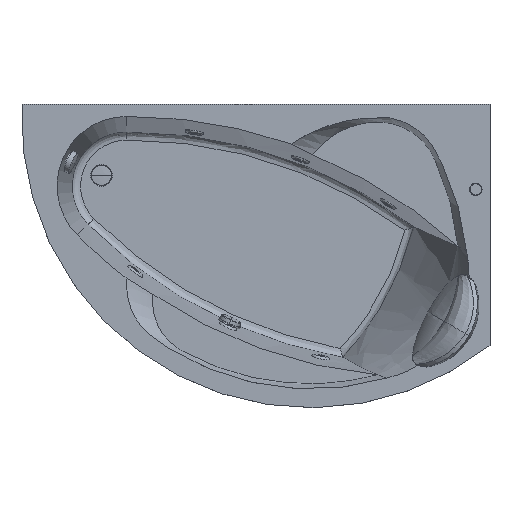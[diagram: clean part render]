
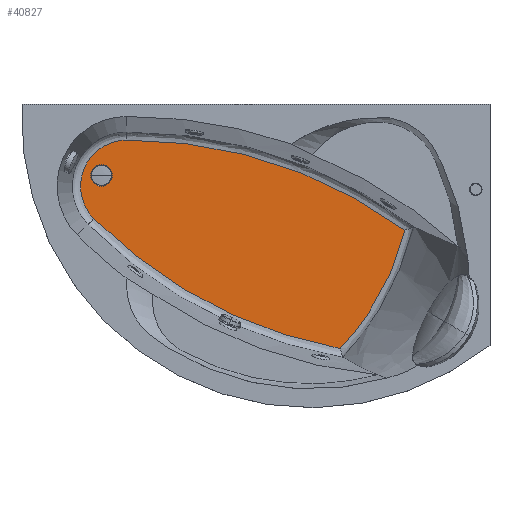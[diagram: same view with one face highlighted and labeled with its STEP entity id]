
A CAD part, top view. The second image highlights one B-rep face of the part: STEP entity #40827.
In plain terms, the highlighted planar face has unit normal (0, 0, 1).
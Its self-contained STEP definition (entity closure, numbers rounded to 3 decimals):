
#39939=CARTESIAN_POINT('',(-299.971,-443.388,-403.0));
#39940=VERTEX_POINT('',#39939);
#39952=CARTESIAN_POINT('',(-528.536,-860.498,-403.0));
#39953=VERTEX_POINT('',#39952);
#39954=CARTESIAN_POINT('',(-299.971,-443.388,-403.0));
#39955=CARTESIAN_POINT('',(-303.541,-458.027,-403.0));
#39956=CARTESIAN_POINT('',(-315.568,-502.405,-403.0));
#39957=CARTESIAN_POINT('',(-342.793,-579.282,-403.0));
#39958=CARTESIAN_POINT('',(-383.37,-663.945,-403.0));
#39959=CARTESIAN_POINT('',(-427.256,-735.849,-403.0));
#39960=CARTESIAN_POINT('',(-463.784,-786.179,-403.0));
#39961=CARTESIAN_POINT('',(-493.156,-822.013,-403.0));
#39962=CARTESIAN_POINT('',(-513.33,-844.571,-403.));
#39963=CARTESIAN_POINT('',(-524.883,-856.724,-403.0));
#39964=CARTESIAN_POINT('',(-528.536,-860.498,-403.0));
#39965=B_SPLINE_CURVE_WITH_KNOTS('',3,(#39954,#39955,#39956,#39957,#39958,#39959,#39960,#39961,#39962,#39963,#39964),.UNSPECIFIED.,.F.,.U.,(4,1,1,1,1,1,1,1,4),(19.051,64.256,156.928,263.42,345.451,409.397,449.868,484.412,500.169),.UNSPECIFIED.);
#39966=EDGE_CURVE('',#39940,#39953,#39965,.T.);
#40031=CARTESIAN_POINT('',(-1282.265,-125.713,-403.0));
#40032=VERTEX_POINT('',#40031);
#40042=CARTESIAN_POINT('',(-1272.231,-1772.215,-403.0));
#40043=DIRECTION('',(0.0,0.0,-1.0));
#40044=DIRECTION('',(0.688,0.726,0.0));
#40045=AXIS2_PLACEMENT_3D('',#40042,#40043,#40044);
#40046=CIRCLE('',#40045,1646.532);
#40047=EDGE_CURVE('',#40032,#39940,#40046,.T.);
#40131=CARTESIAN_POINT('',(-1396.356,-402.415,-403.0));
#40132=VERTEX_POINT('',#40131);
#40133=CARTESIAN_POINT('',(-228.744,758.512,-403.));
#40134=DIRECTION('',(0.0,0.0,-1.));
#40135=DIRECTION('',(-0.078,-0.997,0.0));
#40136=AXIS2_PLACEMENT_3D('',#40133,#40134,#40135);
#40137=CIRCLE('',#40136,1646.532);
#40138=EDGE_CURVE('',#39953,#40132,#40137,.T.);
#40428=CARTESIAN_POINT('',(-1281.276,-287.993,-403.0));
#40429=DIRECTION('',(0.0,0.0,-1.0));
#40430=DIRECTION('',(-0.006,1.,0.0));
#40431=AXIS2_PLACEMENT_3D('',#40428,#40429,#40430);
#40432=CIRCLE('',#40431,162.283);
#40433=EDGE_CURVE('',#40132,#40032,#40432,.T.);
#40754=CARTESIAN_POINT('',(-1408.191,-250.,-403.0));
#40755=VERTEX_POINT('',#40754);
#40762=CARTESIAN_POINT('',(-1331.809,-250.,-403.0));
#40763=VERTEX_POINT('',#40762);
#40764=CARTESIAN_POINT('',(-1370.0,-250.0,-403.0));
#40765=DIRECTION('',(0.,0.,-1.0));
#40766=DIRECTION('',(-1.0,0.,0.0));
#40767=AXIS2_PLACEMENT_3D('',#40764,#40765,#40766);
#40768=CIRCLE('',#40767,38.191);
#40769=EDGE_CURVE('',#40763,#40755,#40768,.T.);
#40801=CARTESIAN_POINT('',(-1370.0,-250.0,-403.0));
#40802=DIRECTION('',(0.,0.,-1.0));
#40803=DIRECTION('',(-1.0,0.,0.0));
#40804=AXIS2_PLACEMENT_3D('',#40801,#40802,#40803);
#40805=CIRCLE('',#40804,38.191);
#40806=EDGE_CURVE('',#40755,#40763,#40805,.T.);
#40812=CARTESIAN_POINT('',(-1470.816,-100.749,-403.0));
#40813=DIRECTION('',(0.0,0.0,-1.0));
#40814=DIRECTION('',(1.,0.006,0.0));
#40815=AXIS2_PLACEMENT_3D('',#40812,#40813,#40814);
#40816=PLANE('',#40815);
#40817=ORIENTED_EDGE('',*,*,#40138,.F.);
#40818=ORIENTED_EDGE('',*,*,#39966,.F.);
#40819=ORIENTED_EDGE('',*,*,#40047,.F.);
#40820=ORIENTED_EDGE('',*,*,#40433,.F.);
#40821=EDGE_LOOP('',(#40817,#40818,#40819,#40820));
#40822=FACE_OUTER_BOUND('',#40821,.T.);
#40823=ORIENTED_EDGE('',*,*,#40806,.T.);
#40824=ORIENTED_EDGE('',*,*,#40769,.T.);
#40825=EDGE_LOOP('',(#40823,#40824));
#40826=FACE_BOUND('',#40825,.T.);
#40827=ADVANCED_FACE('',(#40822,#40826),#40816,.F.);
